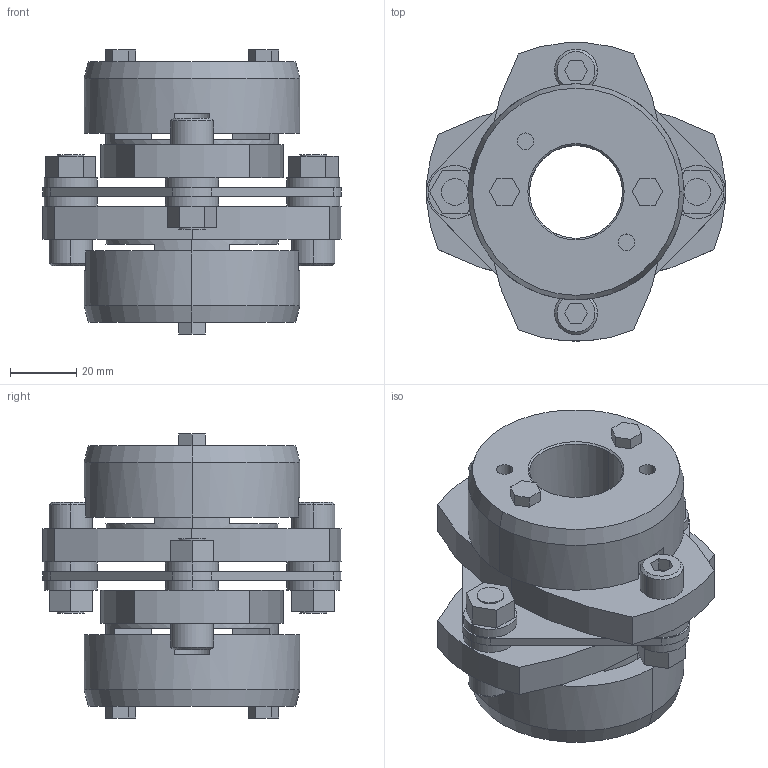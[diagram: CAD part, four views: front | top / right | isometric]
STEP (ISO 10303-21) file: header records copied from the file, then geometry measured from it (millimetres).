
FILE_DESCRIPTION((''),'2;1');
FILE_NAME('LCS-90T7-28×28.stp','2015-11-01T20:24:10',(''),(''),'AutoCAD STEP 2000i','AutoCAD 2000i',', , ');
FILE_SCHEMA(('CONFIG_CONTROL_DESIGN'));
Length unit declared in the file: millimetre
Products named in the file (11): LCS-90T7-30×30; 忣兜1; LC90T7-T030-1; LC90T7-T030; LC90T7-T025-1; LC90T7-T025; LC90T7-T019-1; LC90T7-T019; LC90-B019-1; LC90-B019; LCS90-ITA
Assembly tree (10 placements, depth 2):
  LCS-90T7-30×30
    忣兜1
    LC90T7-T030-1
    LC90T7-T030
    LC90T7-T025-1
    LC90T7-T025
    LC90T7-T019-1
    LC90T7-T019
    LC90-B019-1
    LC90-B019
    LCS90-ITA
Bounding box: 90 x 89.94 x 85.5 mm (x, y, z)
Volume: 213596.1 mm3; surface area: 54359.5 mm2
Topology: 1 solids, 1 shells, 226 faces, 556 edges, 364 vertices
Faces by surface type: plane 122, cylinder 84, cone 20
Entity records: 6983 total; most frequent: DIRECTION 1242, CARTESIAN_POINT 1157, ORIENTED_EDGE 1112, EDGE_CURVE 556, AXIS2_PLACEMENT_3D 449, VERTEX_POINT 364, VECTOR 344, LINE 344
